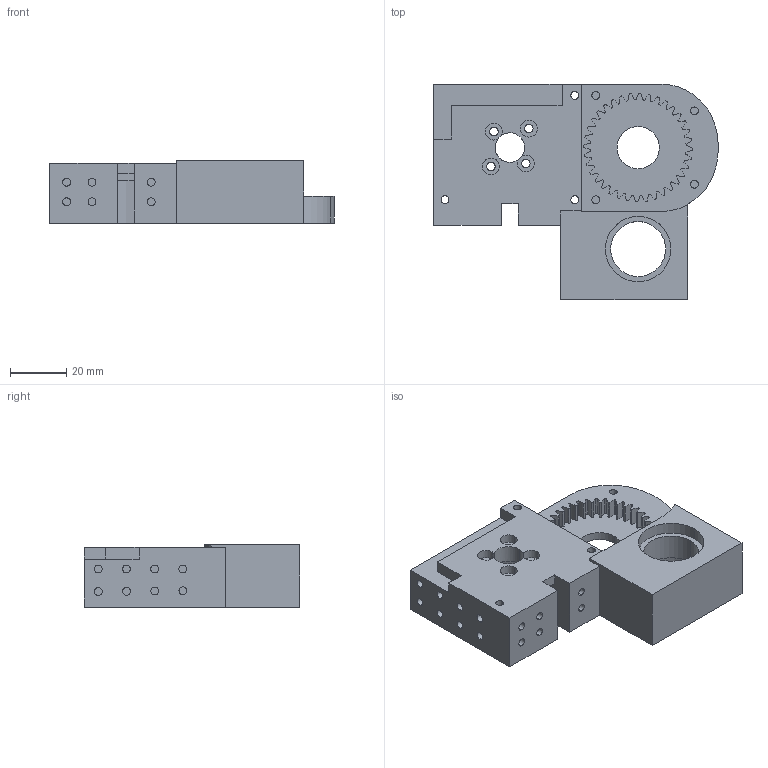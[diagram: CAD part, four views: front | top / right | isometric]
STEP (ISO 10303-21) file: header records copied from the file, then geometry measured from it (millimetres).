
FILE_DESCRIPTION (( 'STEP AP214' ), '1' );
FILE_NAME ('Gripper_main_body.STEP', '2020-08-29T12:50:19', ( '' ), ( '' ), 'SwSTEP 2.0', 'SolidWorks 2020', '' );
FILE_SCHEMA (( 'AUTOMOTIVE_DESIGN' ));
Length unit declared in the file: millimetre
Products named in the file (1): Gripper_main_body
Bounding box: 100.91 x 76.5 x 22.1 mm (x, y, z)
Volume: 67617.1 mm3; surface area: 25337.1 mm2
Topology: 1 solids, 1 shells, 283 faces, 765 edges, 510 vertices
Faces by surface type: cylinder 230, plane 53
Entity records: 9237 total; most frequent: DIRECTION 1797, CARTESIAN_POINT 1559, ORIENTED_EDGE 1530, EDGE_CURVE 765, AXIS2_PLACEMENT_3D 748, VERTEX_POINT 510, CIRCLE 464, EDGE_LOOP 329
